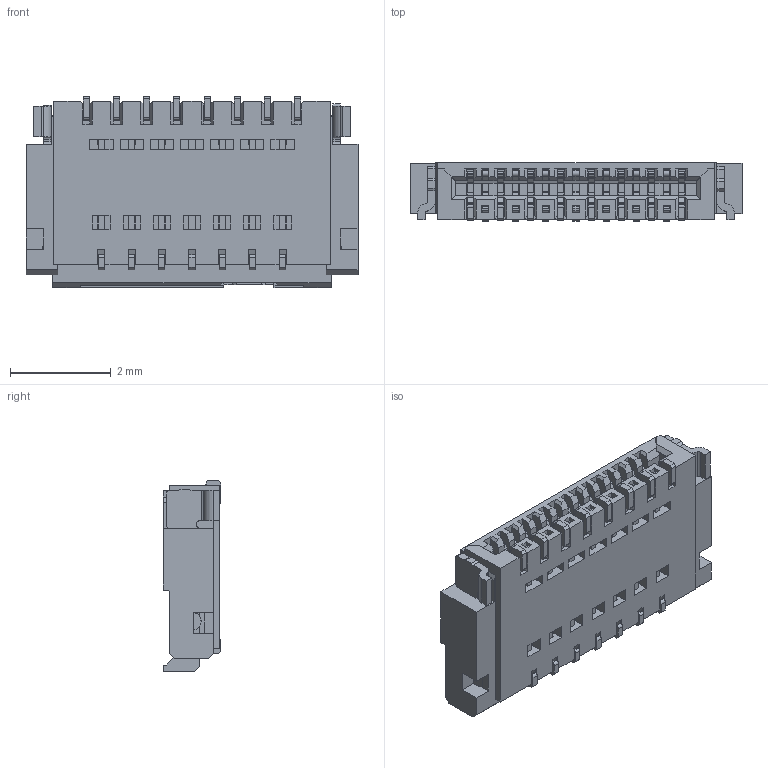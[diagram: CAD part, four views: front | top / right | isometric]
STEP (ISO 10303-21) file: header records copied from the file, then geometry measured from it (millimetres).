
FILE_DESCRIPTION((''),'2;1');
FILE_NAME('5025981593','2014-04-25T',('me'),(''),'PRO/ENGINEER BY PARAMETRIC TECHNOLOGY CORPORATION, 2011490','PRO/ENGINEER BY PARAMETRIC TECHNOLOGY CORPORATION, 2011490','');
FILE_SCHEMA(('CONFIG_CONTROL_DESIGN'));
Length unit declared in the file: millimetre
Products named in the file (1): 5025981593
Bounding box: 6.6 x 1.15 x 3.8 mm (x, y, z)
Volume: 16.9 mm3; surface area: 191.6 mm2
Topology: 1 solids, 1 shells, 1818 faces, 5926 edges, 3891 vertices
Faces by surface type: plane 1546, cylinder 272
Entity records: 64356 total; most frequent: ORIENTED_EDGE 11712, CARTESIAN_POINT 11564, DIRECTION 10138, EDGE_CURVE 5856, VECTOR 5352, LINE 5352, VERTEX_POINT 3819, AXIS2_PLACEMENT_3D 2393
